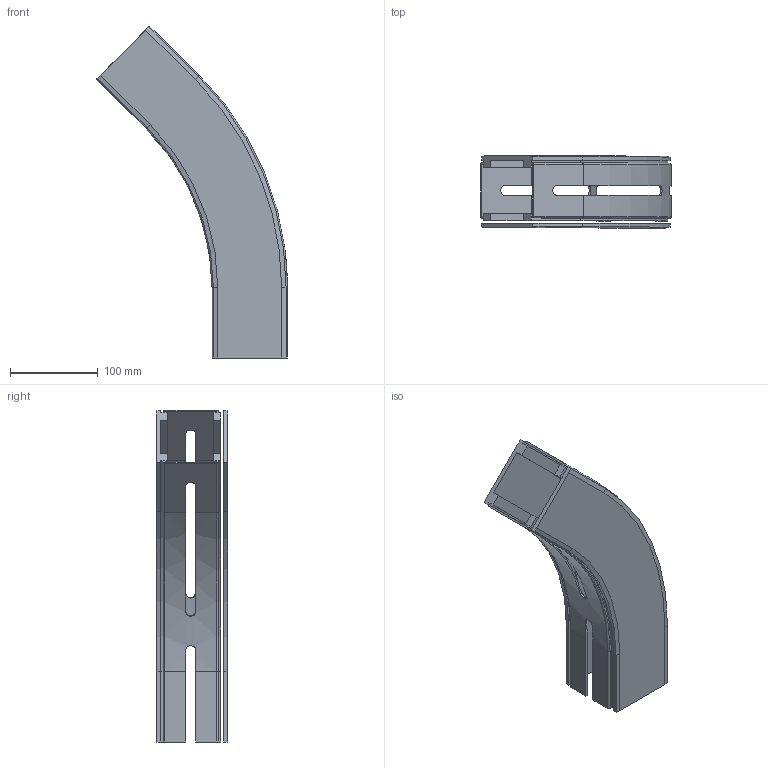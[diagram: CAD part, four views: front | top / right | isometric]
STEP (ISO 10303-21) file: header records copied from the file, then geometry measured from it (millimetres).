
FILE_DESCRIPTION(/* description */ ('GLIDKURVA SERIE 530'),/* implementation_level */ '2;1');
FILE_NAME(/* name */ '530-5375+830-2000-01.stp',/* time_stamp */ '2022-09-20T14:54:07+02:00',/* author */ ('Mathias.Dore'),/* organization */ ('CARRYLINE'),/* preprocessor_version */ 'ST-DEVELOPER v19.2',/* originating_system */ 'Autodesk Inventor 2023',/* authorisation */ '');
FILE_SCHEMA (('AUTOMOTIVE_DESIGN { 1 0 10303 214 3 1 1 }'));
Length unit declared in the file: millimetre
Products named in the file (1): 530-5375+830-2000-01
Bounding box: 217.84 x 82 x 379.11 mm (x, y, z)
Volume: 573175.7 mm3; surface area: 275900.5 mm2
Topology: 2 solids, 2 shells, 163 faces, 458 edges, 300 vertices
Faces by surface type: plane 107, cylinder 30, bspline 18, torus 4, cone 4
Entity records: 5605 total; most frequent: CARTESIAN_POINT 1336, ORIENTED_EDGE 916, DIRECTION 798, EDGE_CURVE 458, LINE 338, VECTOR 338, VERTEX_POINT 300, AXIS2_PLACEMENT_3D 230
